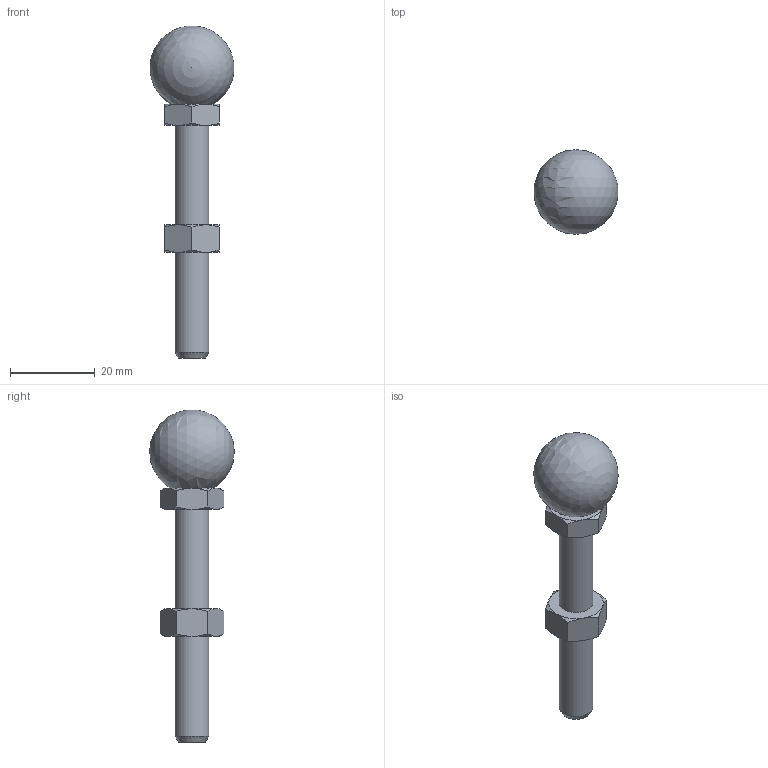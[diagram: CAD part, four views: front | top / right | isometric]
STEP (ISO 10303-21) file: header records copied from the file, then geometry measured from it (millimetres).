
FILE_DESCRIPTION(/* description */ ('VITE STEI M8x70 UNI 5923'),/* implementation_level */ '2;1');
FILE_NAME(/* name */ 'C:\Local Work Area\Progetti\AP\CALIBRI\22.50.iam.stp',/* time_stamp */ '2015-05-15T09:11:46+02:00',/* author */ ('APto'),/* organization */ (''),/* preprocessor_version */ 'ST-DEVELOPER v15.2',/* originating_system */ 'Autodesk Inventor 2014',/* authorisation */ '');
FILE_SCHEMA (('AUTOMOTIVE_DESIGN { 1 0 10303 214 3 1 1 }'));
Length unit declared in the file: millimetre
Products named in the file (7): VITE STEI M8x70 UNI 5923; 22.02-A; Specialinsert M8 860_0_080_80; 22.02-B; UNI 5589 basso - M8 - 1,25; UNI 5588 - M8 - 1,25; 22.50
Bounding box: 19.84 x 20 x 78.52 mm (x, y, z)
Volume: 8244 mm3; surface area: 5509.4 mm2
Topology: 5 solids, 5 shells, 73 faces, 155 edges, 94 vertices
Faces by surface type: cone 32, plane 30, cylinder 10, sphere 1
Full cylindrical faces by diameter (mm): 6.647 x3, 8 x1, 8.5 x1, 9 x1, 9.5 x1, 10 x1, 10.2 x2
Entity records: 1895 total; most frequent: CARTESIAN_POINT 408, DIRECTION 296, ORIENTED_EDGE 256, AXIS2_PLACEMENT_3D 136, EDGE_CURVE 128, EDGE_LOOP 100, VERTEX_POINT 86, ADVANCED_FACE 73
